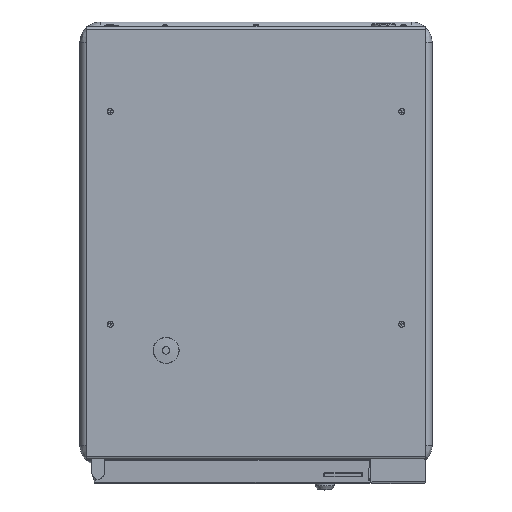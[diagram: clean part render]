
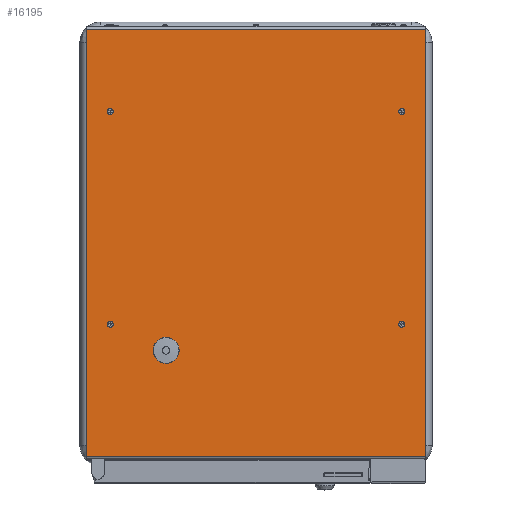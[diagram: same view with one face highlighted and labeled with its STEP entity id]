
A CAD part, top view. The second image highlights one B-rep face of the part: STEP entity #16195.
In plain terms, the highlighted planar face has unit normal (0, 0, 1).
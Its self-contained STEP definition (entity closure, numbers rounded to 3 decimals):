
#1153=FACE_OUTER_BOUND('',#6171,.T.);
#2527=LINE('',#26681,#4059);
#2528=LINE('',#26683,#4060);
#2529=LINE('',#26685,#4061);
#2530=LINE('',#26686,#4062);
#4059=VECTOR('',#21970,390.);
#4060=VECTOR('',#21971,492.5);
#4061=VECTOR('',#21972,390.);
#4062=VECTOR('',#21973,492.5);
#4897=PLANE('',#17765);
#5204=FACE_BOUND('',#6172,.T.);
#5205=FACE_BOUND('',#6173,.T.);
#5206=FACE_BOUND('',#6174,.T.);
#5207=FACE_BOUND('',#6175,.T.);
#5208=FACE_BOUND('',#6176,.T.);
#6171=EDGE_LOOP('',(#14411,#14412,#14413,#14414));
#6172=EDGE_LOOP('',(#14415));
#6173=EDGE_LOOP('',(#14416));
#6174=EDGE_LOOP('',(#14417));
#6175=EDGE_LOOP('',(#14418));
#6176=EDGE_LOOP('',(#14419));
#7017=CIRCLE('',#17754,13.);
#7023=CIRCLE('',#17766,3.5);
#7024=CIRCLE('',#17767,3.5);
#7025=CIRCLE('',#17768,3.5);
#7026=CIRCLE('',#17769,3.5);
#8282=VERTEX_POINT('',#26661);
#8288=VERTEX_POINT('',#26679);
#8289=VERTEX_POINT('',#26680);
#8290=VERTEX_POINT('',#26682);
#8291=VERTEX_POINT('',#26684);
#8292=VERTEX_POINT('',#26687);
#8293=VERTEX_POINT('',#26689);
#8294=VERTEX_POINT('',#26691);
#8295=VERTEX_POINT('',#26693);
#10375=EDGE_CURVE('',#8282,#8282,#7017,.T.);
#10381=EDGE_CURVE('',#8288,#8289,#2527,.T.);
#10382=EDGE_CURVE('',#8290,#8288,#2528,.T.);
#10383=EDGE_CURVE('',#8291,#8290,#2529,.T.);
#10384=EDGE_CURVE('',#8289,#8291,#2530,.T.);
#10385=EDGE_CURVE('',#8292,#8292,#7023,.T.);
#10386=EDGE_CURVE('',#8293,#8293,#7024,.T.);
#10387=EDGE_CURVE('',#8294,#8294,#7025,.T.);
#10388=EDGE_CURVE('',#8295,#8295,#7026,.T.);
#14411=ORIENTED_EDGE('',*,*,#10381,.F.);
#14412=ORIENTED_EDGE('',*,*,#10382,.F.);
#14413=ORIENTED_EDGE('',*,*,#10383,.F.);
#14414=ORIENTED_EDGE('',*,*,#10384,.F.);
#14415=ORIENTED_EDGE('',*,*,#10385,.T.);
#14416=ORIENTED_EDGE('',*,*,#10386,.T.);
#14417=ORIENTED_EDGE('',*,*,#10387,.T.);
#14418=ORIENTED_EDGE('',*,*,#10388,.T.);
#14419=ORIENTED_EDGE('',*,*,#10375,.T.);
#16195=ADVANCED_FACE('',(#1153,#5204,#5205,#5206,#5207,#5208),#4897,.T.);
#17754=AXIS2_PLACEMENT_3D('',#26662,#21946,#21947);
#17765=AXIS2_PLACEMENT_3D('',#26678,#21968,#21969);
#17766=AXIS2_PLACEMENT_3D('',#26688,#21974,#21975);
#17767=AXIS2_PLACEMENT_3D('',#26690,#21976,#21977);
#17768=AXIS2_PLACEMENT_3D('',#26692,#21978,#21979);
#17769=AXIS2_PLACEMENT_3D('',#26694,#21980,#21981);
#21946=DIRECTION('center_axis',(0.,0.,-1.));
#21947=DIRECTION('ref_axis',(0.,-1.,0.));
#21968=DIRECTION('center_axis',(0.,0.,1.));
#21969=DIRECTION('ref_axis',(0.,-1.,0.));
#21970=DIRECTION('',(1.,0.,0.));
#21971=DIRECTION('',(0.,1.,0.));
#21972=DIRECTION('',(-1.,0.,0.));
#21973=DIRECTION('',(0.,-1.,0.));
#21974=DIRECTION('center_axis',(0.,0.,-1.));
#21975=DIRECTION('ref_axis',(-1.,0.,0.));
#21976=DIRECTION('center_axis',(0.,0.,-1.));
#21977=DIRECTION('ref_axis',(-1.,0.,0.));
#21978=DIRECTION('center_axis',(0.,0.,-1.));
#21979=DIRECTION('ref_axis',(-1.,0.,0.));
#21980=DIRECTION('center_axis',(0.,0.,-1.));
#21981=DIRECTION('ref_axis',(-1.,0.,0.));
#26661=CARTESIAN_POINT('',(-103.5,147.5,264.2));
#26662=CARTESIAN_POINT('Origin',(-103.5,160.5,264.2));
#26678=CARTESIAN_POINT('Origin',(0.,534.,264.2));
#26679=CARTESIAN_POINT('',(-195.,530.5,264.2));
#26680=CARTESIAN_POINT('',(195.,530.5,264.2));
#26681=CARTESIAN_POINT('',(0.,530.5,264.2));
#26682=CARTESIAN_POINT('',(-195.,38.,264.2));
#26683=CARTESIAN_POINT('',(-195.,35.5,264.2));
#26684=CARTESIAN_POINT('',(195.,38.,264.2));
#26685=CARTESIAN_POINT('',(0.,38.,264.2));
#26686=CARTESIAN_POINT('',(195.,35.5,264.2));
#26687=CARTESIAN_POINT('',(-164.5,190.6,264.2));
#26688=CARTESIAN_POINT('Origin',(-168.,190.6,264.2));
#26689=CARTESIAN_POINT('',(171.5,190.6,264.2));
#26690=CARTESIAN_POINT('Origin',(168.,190.6,264.2));
#26691=CARTESIAN_POINT('',(-164.5,435.6,264.2));
#26692=CARTESIAN_POINT('Origin',(-168.,435.6,264.2));
#26693=CARTESIAN_POINT('',(171.5,435.6,264.2));
#26694=CARTESIAN_POINT('Origin',(168.,435.6,264.2));
